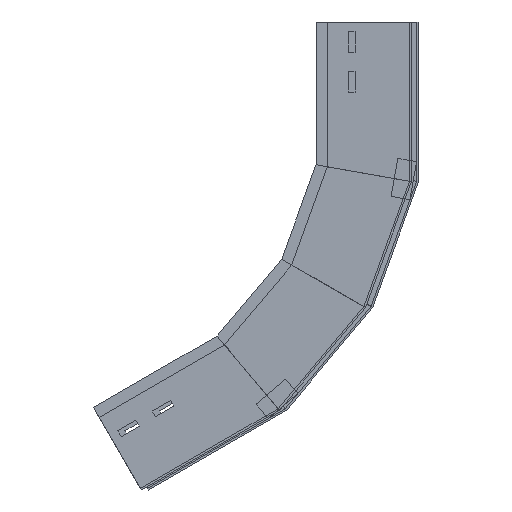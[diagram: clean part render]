
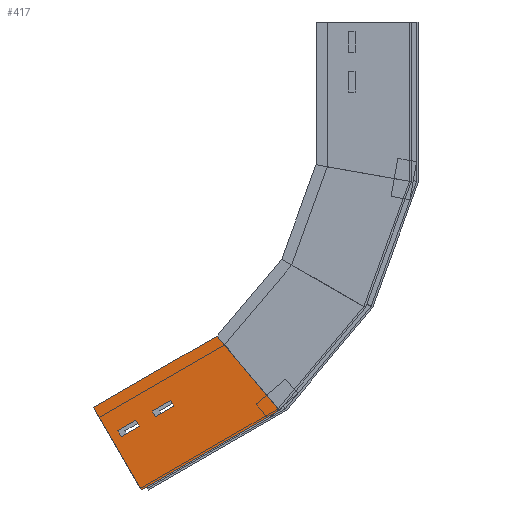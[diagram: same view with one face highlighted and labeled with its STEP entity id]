
A CAD part, left-side view. The second image highlights one B-rep face of the part: STEP entity #417.
In plain terms, the highlighted planar face has unit normal (-1, 0, 0) as drawn and (1, 0, 0) by its records, which use the part's own axes.
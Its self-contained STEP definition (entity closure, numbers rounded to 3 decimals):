
#2 = VERTEX_POINT ( 'NONE', #1225 ) ;
#4 = DIRECTION ( 'NONE',  ( 0., -0.985, -0.174 ) ) ;
#8 = ORIENTED_EDGE ( 'NONE', *, *, #743, .T. ) ;
#12 = ORIENTED_EDGE ( 'NONE', *, *, #103, .T. ) ;
#23 = VERTEX_POINT ( 'NONE', #441 ) ;
#37 = DIRECTION ( 'NONE',  ( 0., -1., 0. ) ) ;
#62 = CARTESIAN_POINT ( 'NONE',  ( 0., 100., 0. ) ) ;
#63 = FACE_BOUND ( 'NONE', #368, .T. ) ;
#70 = LINE ( 'NONE', #185, #1504 ) ;
#72 = ORIENTED_EDGE ( 'NONE', *, *, #1328, .T. ) ;
#79 = CARTESIAN_POINT ( 'NONE',  ( 0., 59., -73.505 ) ) ;
#100 = CARTESIAN_POINT ( 'NONE',  ( 0., 66., -9.835 ) ) ;
#103 = EDGE_CURVE ( 'NONE', #1473, #23, #458, .T. ) ;
#113 = DIRECTION ( 'NONE',  ( 0., 0., 1. ) ) ;
#114 = DIRECTION ( 'NONE',  ( 0., 0., 1. ) ) ;
#152 = CARTESIAN_POINT ( 'NONE',  ( 0., 59., -9.835 ) ) ;
#172 = LINE ( 'NONE', #1082, #1577 ) ;
#179 = CARTESIAN_POINT ( 'NONE',  ( 0., 100., 0. ) ) ;
#185 = CARTESIAN_POINT ( 'NONE',  ( 0., 66., -51.505 ) ) ;
#190 = CARTESIAN_POINT ( 'NONE',  ( 0., 59., -9.835 ) ) ;
#192 = VECTOR ( 'NONE', #1005, 1000. ) ;
#197 = LINE ( 'NONE', #324, #876 ) ;
#223 = PLANE ( 'NONE',  #1395 ) ;
#237 = CARTESIAN_POINT ( 'NONE',  ( 0., 100., -149.767 ) ) ;
#254 = LINE ( 'NONE', #1672, #1069 ) ;
#271 = EDGE_CURVE ( 'NONE', #1669, #396, #1555, .T. ) ;
#301 = VECTOR ( 'NONE', #836, 1000. ) ;
#308 = EDGE_LOOP ( 'NONE', ( #12, #1265, #497, #72 ) ) ;
#324 = CARTESIAN_POINT ( 'NONE',  ( 0., 66., -9.835 ) ) ;
#337 = LINE ( 'NONE', #1387, #1628 ) ;
#342 = CARTESIAN_POINT ( 'NONE',  ( 0., 66., -51.505 ) ) ;
#368 = EDGE_LOOP ( 'NONE', ( #1428, #8, #1150, #1435 ) ) ;
#396 = VERTEX_POINT ( 'NONE', #1216 ) ;
#398 = CARTESIAN_POINT ( 'NONE',  ( 0., 66., -31.835 ) ) ;
#403 = DIRECTION ( 'NONE',  ( 0., 0., -1. ) ) ;
#405 = VECTOR ( 'NONE', #113, 1000. ) ;
#410 = EDGE_CURVE ( 'NONE', #748, #804, #172, .T. ) ;
#417 = ADVANCED_FACE ( 'NONE', ( #63, #1632, #1289 ), #223, .F. ) ;
#418 = CARTESIAN_POINT ( 'NONE',  ( 0., 0., 0. ) ) ;
#419 = EDGE_CURVE ( 'NONE', #1457, #1448, #254, .T. ) ;
#441 = CARTESIAN_POINT ( 'NONE',  ( 0., 66., -9.835 ) ) ;
#458 = LINE ( 'NONE', #100, #1208 ) ;
#464 = DIRECTION ( 'NONE',  ( 0., 1., 0. ) ) ;
#497 = ORIENTED_EDGE ( 'NONE', *, *, #419, .T. ) ;
#526 = DIRECTION ( 'NONE',  ( -1., 0., 0. ) ) ;
#558 = LINE ( 'NONE', #152, #405 ) ;
#650 = LINE ( 'NONE', #1443, #1068 ) ;
#686 = EDGE_CURVE ( 'NONE', #804, #1137, #337, .T. ) ;
#721 = LINE ( 'NONE', #62, #301 ) ;
#743 = EDGE_CURVE ( 'NONE', #2, #748, #70, .T. ) ;
#748 = VERTEX_POINT ( 'NONE', #857 ) ;
#801 = EDGE_CURVE ( 'NONE', #1137, #2, #1002, .T. ) ;
#804 = VERTEX_POINT ( 'NONE', #79 ) ;
#836 = DIRECTION ( 'NONE',  ( 0., 0., -1. ) ) ;
#857 = CARTESIAN_POINT ( 'NONE',  ( 0., 66., -73.505 ) ) ;
#875 = LINE ( 'NONE', #1396, #192 ) ;
#876 = VECTOR ( 'NONE', #1467, 1000. ) ;
#881 = ORIENTED_EDGE ( 'NONE', *, *, #1539, .F. ) ;
#888 = CARTESIAN_POINT ( 'NONE',  ( 0., 59., -51.505 ) ) ;
#890 = ORIENTED_EDGE ( 'NONE', *, *, #1410, .F. ) ;
#925 = ORIENTED_EDGE ( 'NONE', *, *, #271, .T. ) ;
#950 = VERTEX_POINT ( 'NONE', #237 ) ;
#1002 = LINE ( 'NONE', #342, #1524 ) ;
#1005 = DIRECTION ( 'NONE',  ( 0., 1., 0. ) ) ;
#1043 = CARTESIAN_POINT ( 'NONE',  ( 0., 59., -31.835 ) ) ;
#1046 = VERTEX_POINT ( 'NONE', #179 ) ;
#1068 = VECTOR ( 'NONE', #4, 1000. ) ;
#1069 = VECTOR ( 'NONE', #1532, 1000. ) ;
#1082 = CARTESIAN_POINT ( 'NONE',  ( 0., 66., -73.505 ) ) ;
#1083 = EDGE_CURVE ( 'NONE', #23, #1457, #197, .T. ) ;
#1119 = EDGE_LOOP ( 'NONE', ( #881, #1217, #925, #890 ) ) ;
#1123 = VECTOR ( 'NONE', #403, 1000. ) ;
#1130 = CARTESIAN_POINT ( 'NONE',  ( 0., 0., 0. ) ) ;
#1131 = DIRECTION ( 'NONE',  ( 0., 0., 1. ) ) ;
#1137 = VERTEX_POINT ( 'NONE', #888 ) ;
#1150 = ORIENTED_EDGE ( 'NONE', *, *, #410, .T. ) ;
#1208 = VECTOR ( 'NONE', #464, 1000. ) ;
#1216 = CARTESIAN_POINT ( 'NONE',  ( 0., 0., -167.4 ) ) ;
#1217 = ORIENTED_EDGE ( 'NONE', *, *, #1613, .F. ) ;
#1225 = CARTESIAN_POINT ( 'NONE',  ( 0., 66., -51.505 ) ) ;
#1262 = DIRECTION ( 'NONE',  ( 0., 1., 0. ) ) ;
#1265 = ORIENTED_EDGE ( 'NONE', *, *, #1083, .T. ) ;
#1289 = FACE_BOUND ( 'NONE', #308, .T. ) ;
#1328 = EDGE_CURVE ( 'NONE', #1448, #1473, #558, .T. ) ;
#1387 = CARTESIAN_POINT ( 'NONE',  ( 0., 59., -51.505 ) ) ;
#1395 = AXIS2_PLACEMENT_3D ( 'NONE', #1426, #526, #114 ) ;
#1396 = CARTESIAN_POINT ( 'NONE',  ( 0., 0., 0. ) ) ;
#1410 = EDGE_CURVE ( 'NONE', #950, #396, #650, .T. ) ;
#1426 = CARTESIAN_POINT ( 'NONE',  ( 0., 0., 0. ) ) ;
#1428 = ORIENTED_EDGE ( 'NONE', *, *, #801, .T. ) ;
#1435 = ORIENTED_EDGE ( 'NONE', *, *, #686, .T. ) ;
#1443 = CARTESIAN_POINT ( 'NONE',  ( 0., 28.627, -162.352 ) ) ;
#1448 = VERTEX_POINT ( 'NONE', #1043 ) ;
#1457 = VERTEX_POINT ( 'NONE', #398 ) ;
#1467 = DIRECTION ( 'NONE',  ( 0., 0., -1. ) ) ;
#1473 = VERTEX_POINT ( 'NONE', #190 ) ;
#1504 = VECTOR ( 'NONE', #1611, 1000. ) ;
#1524 = VECTOR ( 'NONE', #1262, 1000. ) ;
#1532 = DIRECTION ( 'NONE',  ( 0., -1., 0. ) ) ;
#1539 = EDGE_CURVE ( 'NONE', #1046, #950, #721, .T. ) ;
#1555 = LINE ( 'NONE', #418, #1123 ) ;
#1577 = VECTOR ( 'NONE', #37, 1000. ) ;
#1611 = DIRECTION ( 'NONE',  ( 0., 0., -1. ) ) ;
#1613 = EDGE_CURVE ( 'NONE', #1669, #1046, #875, .T. ) ;
#1628 = VECTOR ( 'NONE', #1131, 1000. ) ;
#1632 = FACE_OUTER_BOUND ( 'NONE', #1119, .T. ) ;
#1669 = VERTEX_POINT ( 'NONE', #1130 ) ;
#1672 = CARTESIAN_POINT ( 'NONE',  ( 0., 66., -31.835 ) ) ;
